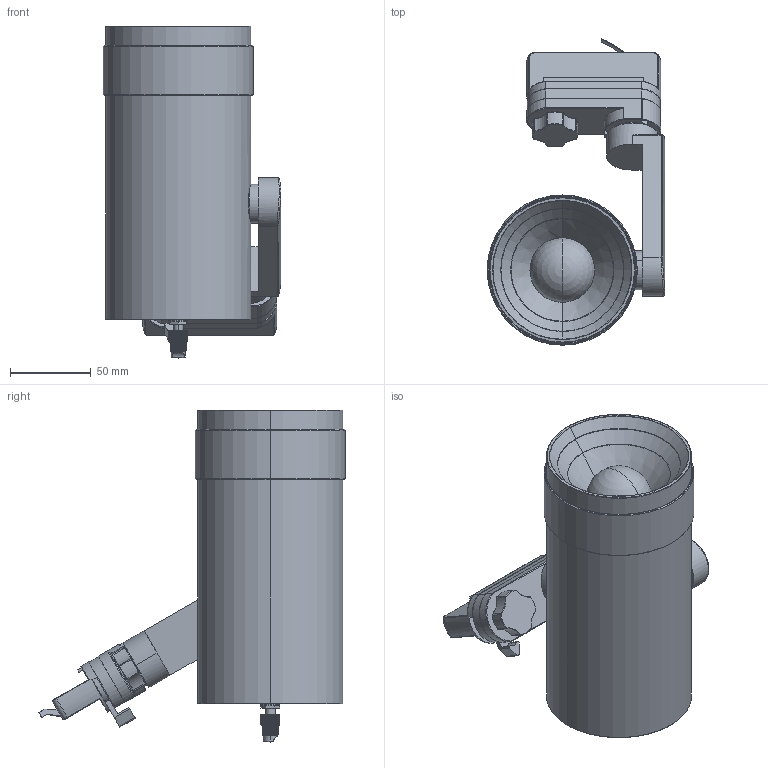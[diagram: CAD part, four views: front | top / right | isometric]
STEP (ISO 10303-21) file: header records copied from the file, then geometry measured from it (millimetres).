
FILE_DESCRIPTION((''),'2;1');
FILE_NAME('SHOWGUN35W_ASM','2025-03-25T17:38:32',('ALY'),(''),'CREO PARAMETRIC BY PTC INC, 2022164','CREO PARAMETRIC BY PTC INC, 2022164','');
FILE_SCHEMA(('AUTOMOTIVE_DESIGN { 1 0 10303 214 1 1 1 1 }'));
Length unit declared in the file: millimetre
Products named in the file (4): SHOWGUN35W0001; 0001; M3X6-0001; SHOWGUN35W_ASM
Assembly tree (4 placements, depth 2):
  SHOWGUN35W_ASM
    SHOWGUN35W0001
    0001
    M3X6-0001  x2
Bounding box: 109.99 x 189.99 x 205.6 mm (x, y, z)
Volume: 871071.7 mm3; surface area: 451306.3 mm2
Topology: 4 solids, 102 shells, 1669 faces, 4039 edges, 2617 vertices
Faces by surface type: plane 1238, cylinder 193, cone 138, torus 64, bspline 20, sphere 16
Entity records: 61295 total; most frequent: CARTESIAN_POINT 11490, DIRECTION 7822, ORIENTED_EDGE 7698, EDGE_CURVE 3849, VECTOR 2912, LINE 2912, VERTEX_POINT 2462, AXIS2_PLACEMENT_3D 2455
